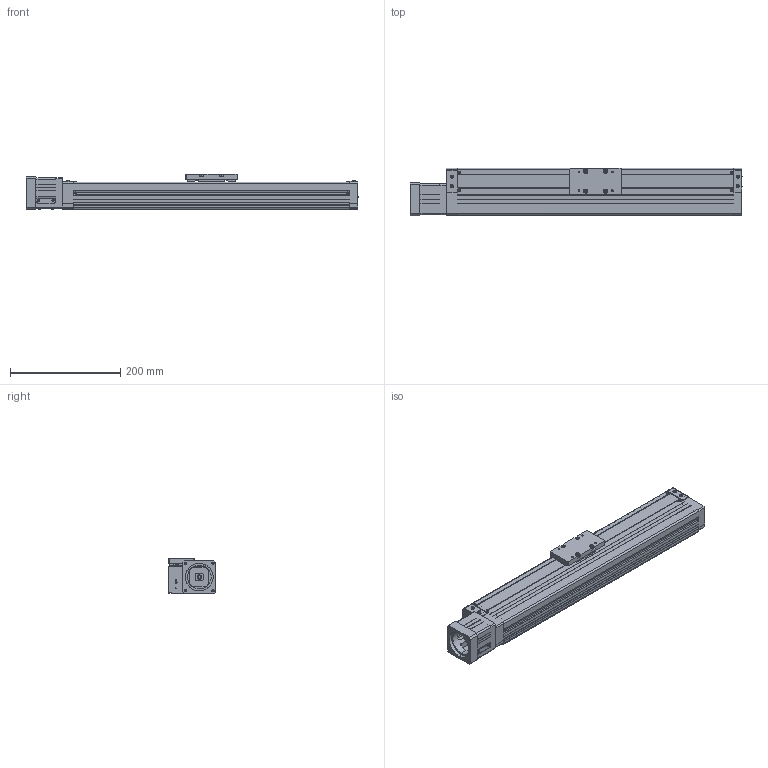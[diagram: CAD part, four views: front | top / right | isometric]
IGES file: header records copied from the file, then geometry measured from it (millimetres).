
Global section: file name: No Iges File Name specified; native system: AutoDesk Inventor R10; preprocessor: AutoDesk Inventor Iges Exporter R10; author: No Author specified; organization: No Organization specified; date: 20110701.174932; units: millimetre
Bounding box: 601 x 86.45 x 65 mm (x, y, z)
Surface area: 380006.2 mm2 (no closed solid volume)
Topology: 0 solids, 0 shells, 946 faces, 5936 edges, 5912 vertices
Faces by surface type: bspline 946
